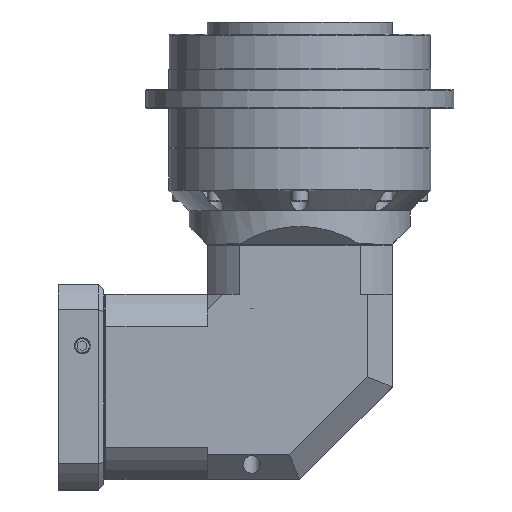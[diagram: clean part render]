
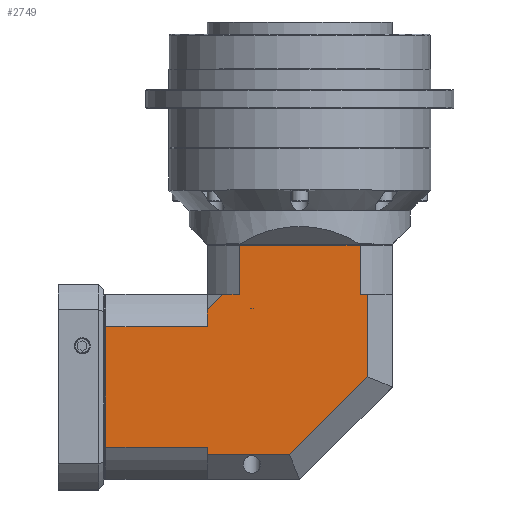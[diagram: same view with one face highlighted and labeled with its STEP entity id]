
A CAD part, top view. The second image highlights one B-rep face of the part: STEP entity #2749.
In plain terms, the highlighted planar face has unit normal (0, 0, 1).
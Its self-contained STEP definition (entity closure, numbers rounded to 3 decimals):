
#2630=CARTESIAN_POINT('',(-143.774,-126.534,90.0));
#2631=DIRECTION('',(0.0,0.0,1.0));
#2632=DIRECTION('',(1.0,0.0,0.0));
#2633=AXIS2_PLACEMENT_3D('',#2630,#2631,#2632);
#2634=PLANE('',#2633);
#2635=CARTESIAN_POINT('',(104.515,53.466,90.));
#2636=VERTEX_POINT('',#2635);
#2637=CARTESIAN_POINT('',(104.515,101.566,90.0));
#2638=VERTEX_POINT('',#2637);
#2639=CARTESIAN_POINT('',(104.515,53.466,90.0));
#2640=DIRECTION('',(0.0,1.0,0.0));
#2641=VECTOR('',#2640,48.1);
#2642=LINE('',#2639,#2641);
#2643=EDGE_CURVE('',#2636,#2638,#2642,.T.);
#2644=ORIENTED_EDGE('',*,*,#2643,.T.);
#2645=CARTESIAN_POINT('',(-13.064,101.566,90.0));
#2646=VERTEX_POINT('',#2645);
#2647=CARTESIAN_POINT('',(104.515,101.566,90.0));
#2648=DIRECTION('',(-1.0,0.0,0.0));
#2649=VECTOR('',#2648,117.58);
#2650=LINE('',#2647,#2649);
#2651=EDGE_CURVE('',#2638,#2646,#2650,.T.);
#2652=ORIENTED_EDGE('',*,*,#2651,.T.);
#2653=CARTESIAN_POINT('',(-13.064,53.466,90.));
#2654=VERTEX_POINT('',#2653);
#2655=CARTESIAN_POINT('',(-13.064,101.566,90.0));
#2656=DIRECTION('',(0.0,-1.0,0.0));
#2657=VECTOR('',#2656,48.1);
#2658=LINE('',#2655,#2657);
#2659=EDGE_CURVE('',#2646,#2654,#2658,.T.);
#2660=ORIENTED_EDGE('',*,*,#2659,.T.);
#2661=CARTESIAN_POINT('',(-29.274,53.466,90.0));
#2662=VERTEX_POINT('',#2661);
#2663=CARTESIAN_POINT('',(-29.274,53.466,90.0));
#2664=DIRECTION('',(1.0,0.0,0.0));
#2665=VECTOR('',#2664,16.21);
#2666=LINE('',#2663,#2665);
#2667=EDGE_CURVE('',#2662,#2654,#2666,.T.);
#2668=ORIENTED_EDGE('',*,*,#2667,.F.);
#2669=CARTESIAN_POINT('',(-44.274,38.466,90.));
#2670=VERTEX_POINT('',#2669);
#2671=CARTESIAN_POINT('',(-29.274,53.466,90.0));
#2672=DIRECTION('',(-0.707,-0.707,0.0));
#2673=VECTOR('',#2672,21.213);
#2674=LINE('',#2671,#2673);
#2675=EDGE_CURVE('',#2662,#2670,#2674,.T.);
#2676=ORIENTED_EDGE('',*,*,#2675,.T.);
#2677=CARTESIAN_POINT('',(-44.274,22.256,90.));
#2678=VERTEX_POINT('',#2677);
#2679=CARTESIAN_POINT('',(-44.274,22.256,90.0));
#2680=DIRECTION('',(0.0,1.0,0.0));
#2681=VECTOR('',#2680,16.21);
#2682=LINE('',#2679,#2681);
#2683=EDGE_CURVE('',#2678,#2670,#2682,.T.);
#2684=ORIENTED_EDGE('',*,*,#2683,.F.);
#2685=CARTESIAN_POINT('',(-142.774,22.256,90.0));
#2686=VERTEX_POINT('',#2685);
#2687=CARTESIAN_POINT('',(-44.274,22.256,90.0));
#2688=DIRECTION('',(-1.0,0.0,0.0));
#2689=VECTOR('',#2688,98.5);
#2690=LINE('',#2687,#2689);
#2691=EDGE_CURVE('',#2678,#2686,#2690,.T.);
#2692=ORIENTED_EDGE('',*,*,#2691,.T.);
#2693=CARTESIAN_POINT('',(-142.774,-95.324,90.0));
#2694=VERTEX_POINT('',#2693);
#2695=CARTESIAN_POINT('',(-142.774,22.256,90.0));
#2696=DIRECTION('',(0.0,-1.0,0.0));
#2697=VECTOR('',#2696,117.58);
#2698=LINE('',#2695,#2697);
#2699=EDGE_CURVE('',#2686,#2694,#2698,.T.);
#2700=ORIENTED_EDGE('',*,*,#2699,.T.);
#2701=CARTESIAN_POINT('',(-44.274,-95.324,90.));
#2702=VERTEX_POINT('',#2701);
#2703=CARTESIAN_POINT('',(-142.774,-95.324,90.0));
#2704=DIRECTION('',(1.0,0.0,0.0));
#2705=VECTOR('',#2704,98.5);
#2706=LINE('',#2703,#2705);
#2707=EDGE_CURVE('',#2694,#2702,#2706,.T.);
#2708=ORIENTED_EDGE('',*,*,#2707,.T.);
#2709=CARTESIAN_POINT('',(-44.274,-102.534,90.0));
#2710=VERTEX_POINT('',#2709);
#2711=CARTESIAN_POINT('',(-44.274,-102.534,90.0));
#2712=DIRECTION('',(0.0,1.0,0.0));
#2713=VECTOR('',#2712,7.21);
#2714=LINE('',#2711,#2713);
#2715=EDGE_CURVE('',#2710,#2702,#2714,.T.);
#2716=ORIENTED_EDGE('',*,*,#2715,.F.);
#2717=CARTESIAN_POINT('',(35.784,-102.534,90.0));
#2718=VERTEX_POINT('',#2717);
#2719=CARTESIAN_POINT('',(-44.274,-102.534,90.0));
#2720=DIRECTION('',(1.0,0.0,0.0));
#2721=VECTOR('',#2720,80.059);
#2722=LINE('',#2719,#2721);
#2723=EDGE_CURVE('',#2710,#2718,#2722,.T.);
#2724=ORIENTED_EDGE('',*,*,#2723,.T.);
#2725=CARTESIAN_POINT('',(111.726,-26.593,90.0));
#2726=VERTEX_POINT('',#2725);
#2727=CARTESIAN_POINT('',(35.784,-102.534,90.0));
#2728=DIRECTION('',(0.707,0.707,0.0));
#2729=VECTOR('',#2728,107.397);
#2730=LINE('',#2727,#2729);
#2731=EDGE_CURVE('',#2718,#2726,#2730,.T.);
#2732=ORIENTED_EDGE('',*,*,#2731,.T.);
#2733=CARTESIAN_POINT('',(111.726,53.466,90.));
#2734=VERTEX_POINT('',#2733);
#2735=CARTESIAN_POINT('',(111.726,-26.593,90.0));
#2736=DIRECTION('',(0.0,1.0,0.0));
#2737=VECTOR('',#2736,80.059);
#2738=LINE('',#2735,#2737);
#2739=EDGE_CURVE('',#2726,#2734,#2738,.T.);
#2740=ORIENTED_EDGE('',*,*,#2739,.T.);
#2741=CARTESIAN_POINT('',(104.515,53.466,90.0));
#2742=DIRECTION('',(1.0,0.0,0.0));
#2743=VECTOR('',#2742,7.21);
#2744=LINE('',#2741,#2743);
#2745=EDGE_CURVE('',#2636,#2734,#2744,.T.);
#2746=ORIENTED_EDGE('',*,*,#2745,.F.);
#2747=EDGE_LOOP('',(#2644,#2652,#2660,#2668,#2676,#2684,#2692,#2700,#2708,#2716,#2724,#2732,#2740,#2746));
#2748=FACE_OUTER_BOUND('',#2747,.T.);
#2749=ADVANCED_FACE('',(#2748),#2634,.T.);
